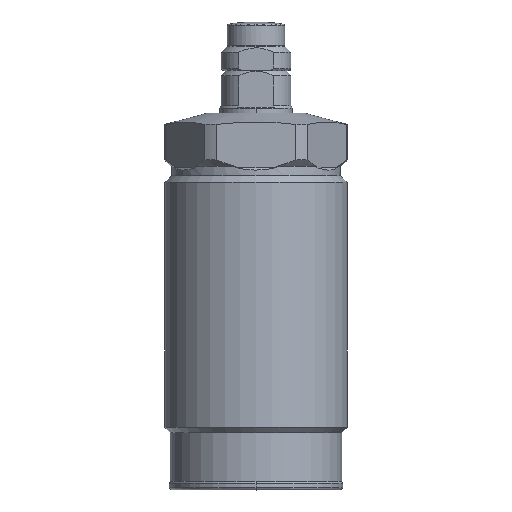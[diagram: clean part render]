
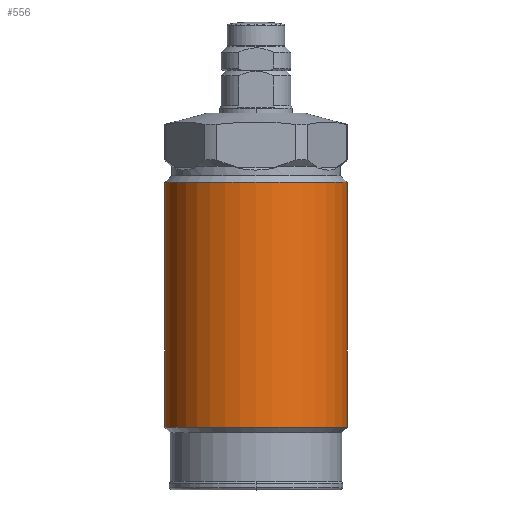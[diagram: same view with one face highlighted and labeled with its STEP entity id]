
A CAD part, top view. The second image highlights one B-rep face of the part: STEP entity #556.
In plain terms, the highlighted cylindrical face has radius 15 mm (diameter 30 mm), a partial arc.
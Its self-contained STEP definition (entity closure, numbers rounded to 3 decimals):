
#556=ADVANCED_FACE('',(#814),#715,.T.);
#715=CYLINDRICAL_SURFACE('',#3487,15.);
#814=FACE_OUTER_BOUND('',#1000,.T.);
#1000=EDGE_LOOP('',(#1679,#1680,#1681,#1682));
#1197=LINE('',#5196,#1333);
#1198=LINE('',#5197,#1334);
#1333=VECTOR('',#4150,1.);
#1334=VECTOR('',#4151,1.);
#1679=ORIENTED_EDGE('',*,*,#2760,.T.);
#1680=ORIENTED_EDGE('',*,*,#2761,.T.);
#1681=ORIENTED_EDGE('',*,*,#2758,.F.);
#1682=ORIENTED_EDGE('',*,*,#2762,.F.);
#2431=VERTEX_POINT('',#5188);
#2432=VERTEX_POINT('',#5190);
#2433=VERTEX_POINT('',#5194);
#2434=VERTEX_POINT('',#5195);
#2758=EDGE_CURVE('',#2431,#2432,#3167,.T.);
#2760=EDGE_CURVE('',#2433,#2434,#3168,.T.);
#2761=EDGE_CURVE('',#2434,#2432,#1197,.T.);
#2762=EDGE_CURVE('',#2433,#2431,#1198,.T.);
#3167=CIRCLE('',#3484,15.);
#3168=CIRCLE('',#3486,15.);
#3484=AXIS2_PLACEMENT_3D('',#5189,#4143,#4144);
#3486=AXIS2_PLACEMENT_3D('',#5193,#4148,#4149);
#3487=AXIS2_PLACEMENT_3D('',#5198,#4152,#4153);
#4143=DIRECTION('',(0.,-1.,0.));
#4144=DIRECTION('',(1.,0.,0.));
#4148=DIRECTION('',(0.,-1.,0.));
#4149=DIRECTION('',(1.,0.,0.));
#4150=DIRECTION('',(0.,-1.,0.));
#4151=DIRECTION('',(0.,-1.,0.));
#4152=DIRECTION('',(0.,-1.,0.));
#4153=DIRECTION('',(-1.,0.,0.));
#5188=CARTESIAN_POINT('',(15.,-51.7,0.));
#5189=CARTESIAN_POINT('',(0.,-51.7,0.));
#5190=CARTESIAN_POINT('',(-15.,-51.7,0.));
#5193=CARTESIAN_POINT('',(0.,-11.4,0.));
#5194=CARTESIAN_POINT('',(15.,-11.4,0.));
#5195=CARTESIAN_POINT('',(-15.,-11.4,0.));
#5196=CARTESIAN_POINT('',(-15.,1.,0.));
#5197=CARTESIAN_POINT('',(15.,1.,0.));
#5198=CARTESIAN_POINT('',(0.,1.,0.));
